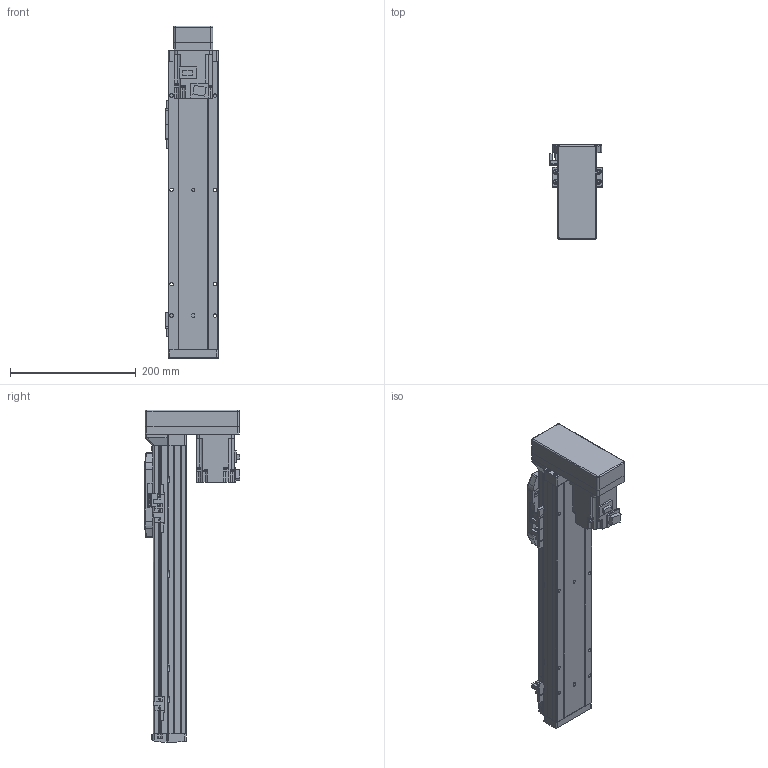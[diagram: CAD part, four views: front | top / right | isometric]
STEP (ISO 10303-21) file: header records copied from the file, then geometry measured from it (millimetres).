
FILE_DESCRIPTION (( 'STEP AP214' ), '1' );
FILE_NAME ('GSH8-300-BM-M20-1.step', '2025-01-07T06:08:02', ( '' ), ( '' ), 'SwSTEP 2.0', 'SolidWorks 2012', '' );
FILE_SCHEMA (( 'AUTOMOTIVE_DESIGN' ));
Length unit declared in the file: millimetre
Products named in the file (5): GSH8-BL-011-300-M20; HG-KR23_200W_Motor; GSH8-GY-004; GSH8-300-BM-M20-1; GSH8-BL-008
Assembly tree (4 placements, depth 2):
  GSH8-300-BM-M20-1
    GSH8-BL-011-300-M20
    GSH8-GY-004
    GSH8-BL-008
    HG-KR23_200W_Motor
Bounding box: 84 x 152.3 x 528.2 mm (x, y, z)
Volume: 1625081 mm3; surface area: 369532.8 mm2
Topology: 4 solids, 8 shells, 1103 faces, 2882 edges, 1852 vertices
Faces by surface type: plane 630, cylinder 377, torus 42, cone 26, bspline 24, sphere 4
Entity records: 43260 total; most frequent: CARTESIAN_POINT 9786, DIRECTION 5846, ORIENTED_EDGE 5748, EDGE_CURVE 2874, AXIS2_PLACEMENT_3D 1964, LINE 1918, VECTOR 1918, VERTEX_POINT 1848
